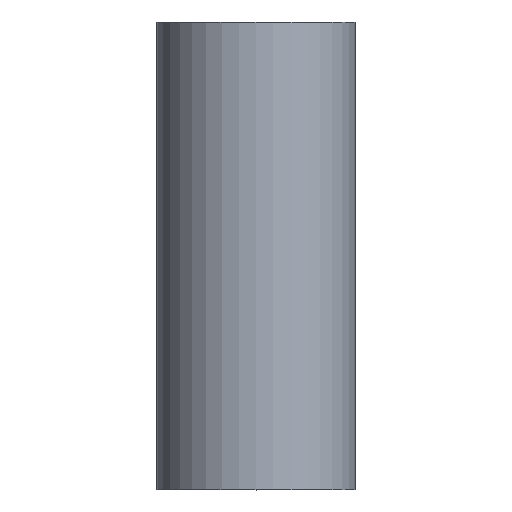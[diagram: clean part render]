
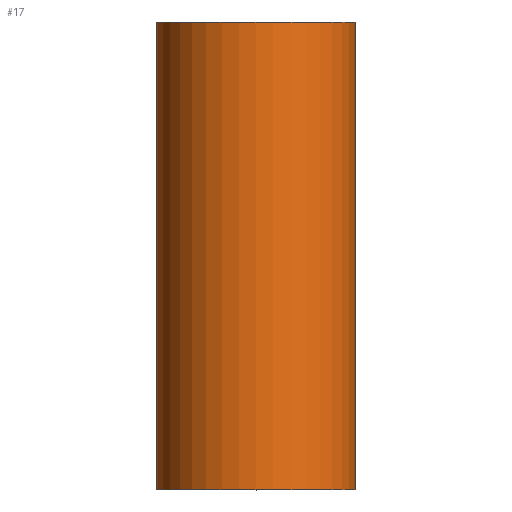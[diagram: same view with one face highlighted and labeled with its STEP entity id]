
A CAD part, top view. The second image highlights one B-rep face of the part: STEP entity #17.
In plain terms, the highlighted cylindrical face has radius 14 mm (diameter 28 mm), a full revolution.
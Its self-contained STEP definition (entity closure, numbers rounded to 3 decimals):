
#17 = ADVANCED_FACE('',(#18),#45,.T.);
#18 = FACE_BOUND('',#19,.T.);
#19 = EDGE_LOOP('',(#20,#29,#37,#44));
#20 = ORIENTED_EDGE('',*,*,#21,.F.);
#21 = EDGE_CURVE('',#22,#22,#24,.T.);
#22 = VERTEX_POINT('',#23);
#23 = CARTESIAN_POINT('',(171.7,188.,69.));
#24 = CIRCLE('',#25,14.);
#25 = AXIS2_PLACEMENT_3D('',#26,#27,#28);
#26 = CARTESIAN_POINT('',(171.7,188.,55.));
#27 = DIRECTION('',(0.,1.,0.));
#28 = DIRECTION('',(0.,0.,1.));
#29 = ORIENTED_EDGE('',*,*,#30,.F.);
#30 = EDGE_CURVE('',#31,#22,#33,.T.);
#31 = VERTEX_POINT('',#32);
#32 = CARTESIAN_POINT('',(171.7,122.,69.));
#33 = LINE('',#34,#35);
#34 = CARTESIAN_POINT('',(171.7,122.,69.));
#35 = VECTOR('',#36,1.);
#36 = DIRECTION('',(0.,1.,0.));
#37 = ORIENTED_EDGE('',*,*,#38,.T.);
#38 = EDGE_CURVE('',#31,#31,#39,.T.);
#39 = CIRCLE('',#40,14.);
#40 = AXIS2_PLACEMENT_3D('',#41,#42,#43);
#41 = CARTESIAN_POINT('',(171.7,122.,55.));
#42 = DIRECTION('',(0.,1.,0.));
#43 = DIRECTION('',(0.,0.,1.));
#44 = ORIENTED_EDGE('',*,*,#30,.T.);
#45 = CYLINDRICAL_SURFACE('',#46,14.);
#46 = AXIS2_PLACEMENT_3D('',#47,#48,#49);
#47 = CARTESIAN_POINT('',(171.7,122.,55.));
#48 = DIRECTION('',(0.,1.,0.));
#49 = DIRECTION('',(0.,0.,1.));
